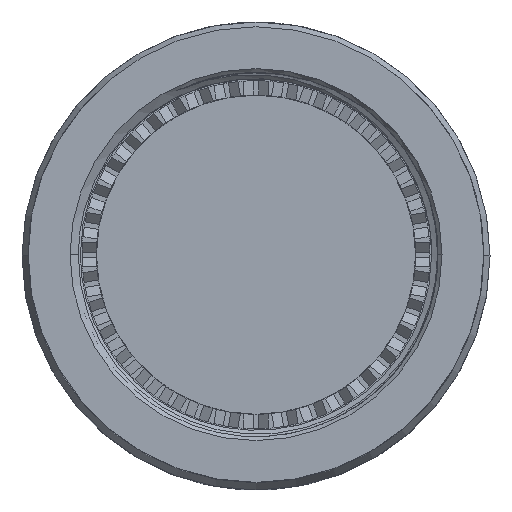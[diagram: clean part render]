
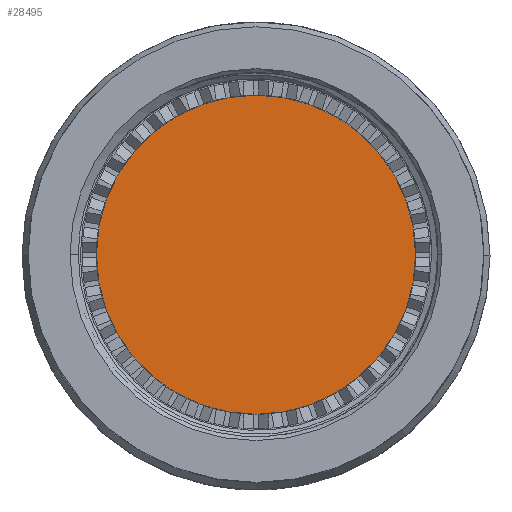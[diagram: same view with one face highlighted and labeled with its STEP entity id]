
A CAD part, top view. The second image highlights one B-rep face of the part: STEP entity #28495.
In plain terms, the highlighted planar face has unit normal (0, 0, 1).
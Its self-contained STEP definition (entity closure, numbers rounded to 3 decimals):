
#3655 = AXIS2_PLACEMENT_3D ( 'NONE', #34995, #24637, #55013 ) ;
#8282 = CIRCLE ( 'NONE', #53739, 13.513 ) ;
#8903 = CIRCLE ( 'NONE', #41978, 13.513 ) ;
#15566 = ORIENTED_EDGE ( 'NONE', *, *, #17823, .T. ) ;
#17823 = EDGE_CURVE ( 'NONE', #40702, #23650, #8282, .T. ) ;
#18811 = CARTESIAN_POINT ( 'NONE',  ( -13.513, 0., -1.99 ) ) ;
#23650 = VERTEX_POINT ( 'NONE', #18811 ) ;
#24637 = DIRECTION ( 'NONE',  ( 0., 0., -1. ) ) ;
#28495 = ADVANCED_FACE ( 'NONE', ( #59529 ), #34669, .F. ) ;
#31596 = ORIENTED_EDGE ( 'NONE', *, *, #31694, .T. ) ;
#31692 = DIRECTION ( 'NONE',  ( 0., 0., 1. ) ) ;
#31694 = EDGE_CURVE ( 'NONE', #23650, #40702, #8903, .T. ) ;
#32069 = EDGE_LOOP ( 'NONE', ( #15566, #31596 ) ) ;
#34669 = PLANE ( 'NONE',  #3655 ) ;
#34995 = CARTESIAN_POINT ( 'NONE',  ( 0., 0., -1.99 ) ) ;
#39283 = DIRECTION ( 'NONE',  ( -1., 0., 0. ) ) ;
#40702 = VERTEX_POINT ( 'NONE', #63179 ) ;
#41978 = AXIS2_PLACEMENT_3D ( 'NONE', #56549, #31692, #42035 ) ;
#42035 = DIRECTION ( 'NONE',  ( -1., 0., 0. ) ) ;
#49007 = DIRECTION ( 'NONE',  ( 0., 0., 1. ) ) ;
#53739 = AXIS2_PLACEMENT_3D ( 'NONE', #63840, #49007, #39283 ) ;
#55013 = DIRECTION ( 'NONE',  ( -1., 0., 0. ) ) ;
#56549 = CARTESIAN_POINT ( 'NONE',  ( 0., 0., -1.99 ) ) ;
#59529 = FACE_OUTER_BOUND ( 'NONE', #32069, .T. ) ;
#63179 = CARTESIAN_POINT ( 'NONE',  ( 13.513, 0., -1.99 ) ) ;
#63840 = CARTESIAN_POINT ( 'NONE',  ( 0., 0., -1.99 ) ) ;
